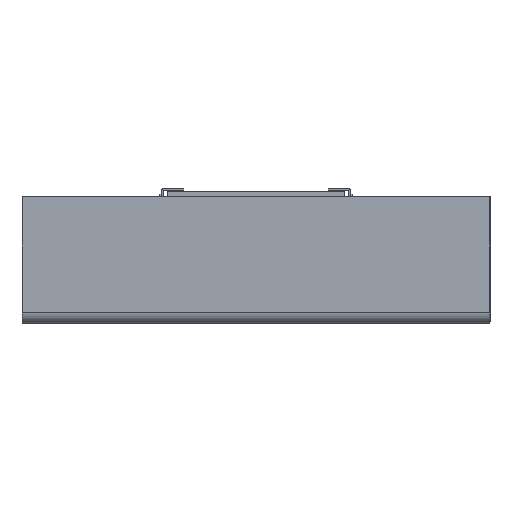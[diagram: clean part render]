
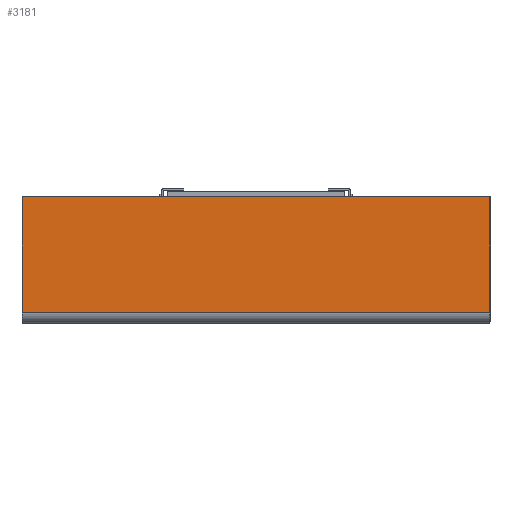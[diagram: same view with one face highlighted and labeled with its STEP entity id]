
A CAD part, left-side view. The second image highlights one B-rep face of the part: STEP entity #3181.
In plain terms, the highlighted planar face has unit normal (-1, 0, 0) as drawn and (0, 1, 0) by its records, which use the part's own axes.
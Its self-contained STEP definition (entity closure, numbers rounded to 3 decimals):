
#204=PLANE('',#3507);
#380=FACE_OUTER_BOUND('',#574,.T.);
#574=EDGE_LOOP('',(#2889,#2890,#2891,#2892));
#990=LINE('',#6176,#1274);
#992=LINE('',#6180,#1276);
#993=LINE('',#6182,#1277);
#994=LINE('',#6183,#1278);
#1274=VECTOR('',#4407,304.8);
#1276=VECTOR('',#4411,304.8);
#1277=VECTOR('',#4412,304.8);
#1278=VECTOR('',#4413,304.8);
#1571=VERTEX_POINT('',#6173);
#1572=VERTEX_POINT('',#6175);
#1573=VERTEX_POINT('',#6179);
#1574=VERTEX_POINT('',#6181);
#2018=EDGE_CURVE('',#1572,#1571,#990,.T.);
#2020=EDGE_CURVE('',#1573,#1571,#992,.T.);
#2021=EDGE_CURVE('',#1574,#1573,#993,.T.);
#2022=EDGE_CURVE('',#1572,#1574,#994,.T.);
#2889=ORIENTED_EDGE('',*,*,#2020,.F.);
#2890=ORIENTED_EDGE('',*,*,#2021,.F.);
#2891=ORIENTED_EDGE('',*,*,#2022,.F.);
#2892=ORIENTED_EDGE('',*,*,#2018,.T.);
#3181=ADVANCED_FACE('',(#380),#204,.T.);
#3507=AXIS2_PLACEMENT_3D('',#6178,#4409,#4410);
#4407=DIRECTION('',(1.,0.,0.));
#4409=DIRECTION('center_axis',(0.,1.,0.));
#4410=DIRECTION('ref_axis',(-1.,0.,0.));
#4411=DIRECTION('',(0.,0.,1.));
#4412=DIRECTION('',(1.,0.,0.));
#4413=DIRECTION('',(0.,0.,-1.));
#6173=CARTESIAN_POINT('',(370.,60.,0.));
#6175=CARTESIAN_POINT('',(0.,60.,0.));
#6176=CARTESIAN_POINT('',(0.,60.,0.));
#6178=CARTESIAN_POINT('Origin',(370.,60.,-91.));
#6179=CARTESIAN_POINT('',(370.,60.,-91.));
#6180=CARTESIAN_POINT('',(370.,60.,-91.));
#6181=CARTESIAN_POINT('',(0.,60.,-91.));
#6182=CARTESIAN_POINT('',(0.,60.,-91.));
#6183=CARTESIAN_POINT('',(0.,60.,0.));
